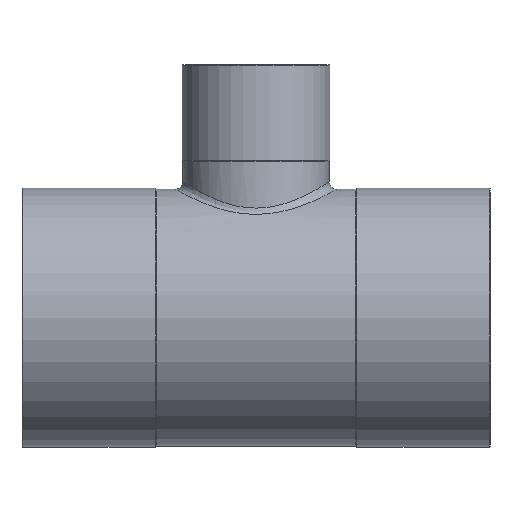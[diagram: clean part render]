
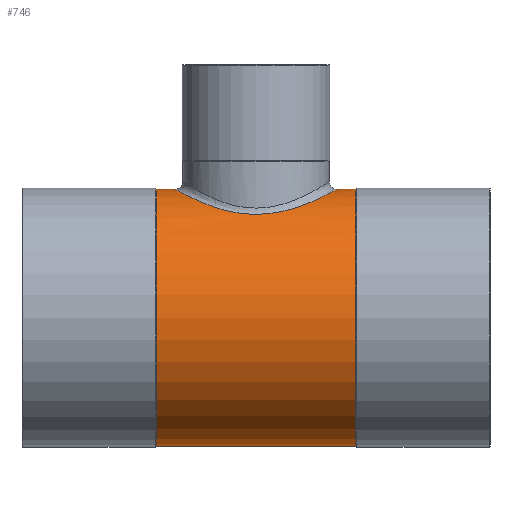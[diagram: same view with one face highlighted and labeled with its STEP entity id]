
A CAD part, top view. The second image highlights one B-rep face of the part: STEP entity #746.
In plain terms, the highlighted cylindrical face has radius 33.5 mm (diameter 67 mm), a partial arc.
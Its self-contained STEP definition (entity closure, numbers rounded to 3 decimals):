
#133=CARTESIAN_POINT('',(25.996,33.5,0.0));
#134=VERTEX_POINT('',#133);
#143=CARTESIAN_POINT('',(25.996,-33.5,0.));
#144=VERTEX_POINT('',#143);
#145=CARTESIAN_POINT('',(25.996,0.0,0.0));
#146=DIRECTION('',(1.0,0.0,0.0));
#147=DIRECTION('',(0.0,1.0,0.0));
#148=AXIS2_PLACEMENT_3D('',#145,#146,#147);
#149=CIRCLE('',#148,33.5);
#150=EDGE_CURVE('',#134,#144,#149,.T.);
#177=CARTESIAN_POINT('',(-25.996,33.5,0.0));
#178=VERTEX_POINT('',#177);
#194=CARTESIAN_POINT('',(-25.996,-33.5,0.));
#195=VERTEX_POINT('',#194);
#202=CARTESIAN_POINT('',(-25.996,0.0,0.0));
#203=DIRECTION('',(1.0,0.0,0.0));
#204=DIRECTION('',(0.0,1.0,0.0));
#205=AXIS2_PLACEMENT_3D('',#202,#203,#204);
#206=CIRCLE('',#205,33.5);
#207=EDGE_CURVE('',#178,#195,#206,.T.);
#698=CARTESIAN_POINT('',(12.998,0.0,0.0));
#699=DIRECTION('',(1.0,0.0,0.0));
#700=DIRECTION('',(0.0,1.0,0.0));
#701=AXIS2_PLACEMENT_3D('',#698,#699,#700);
#702=CYLINDRICAL_SURFACE('',#701,33.5);
#703=CARTESIAN_POINT('',(-21.075,33.5,0.));
#704=VERTEX_POINT('',#703);
#705=CARTESIAN_POINT('',(-25.996,33.5,0.0));
#706=DIRECTION('',(1.0,0.0,0.0));
#707=VECTOR('',#706,4.921);
#708=LINE('',#705,#707);
#709=EDGE_CURVE('',#178,#704,#708,.T.);
#710=ORIENTED_EDGE('',*,*,#709,.F.);
#711=ORIENTED_EDGE('',*,*,#207,.T.);
#712=CARTESIAN_POINT('',(25.996,-33.5,0.));
#713=DIRECTION('',(-1.0,0.0,0.0));
#714=VECTOR('',#713,51.992);
#715=LINE('',#712,#714);
#716=EDGE_CURVE('',#144,#195,#715,.T.);
#717=ORIENTED_EDGE('',*,*,#716,.F.);
#718=ORIENTED_EDGE('',*,*,#150,.F.);
#719=CARTESIAN_POINT('',(21.075,33.5,0.));
#720=VERTEX_POINT('',#719);
#721=CARTESIAN_POINT('',(21.075,33.5,0.));
#722=DIRECTION('',(1.0,0.0,0.0));
#723=VECTOR('',#722,4.921);
#724=LINE('',#721,#723);
#725=EDGE_CURVE('',#720,#134,#724,.T.);
#726=ORIENTED_EDGE('',*,*,#725,.F.);
#727=CARTESIAN_POINT('',(-21.075,33.5,0.));
#728=CARTESIAN_POINT('',(-21.075,33.5,2.445));
#729=CARTESIAN_POINT('',(-20.582,33.218,4.911));
#730=CARTESIAN_POINT('',(-18.024,31.85,11.163));
#731=CARTESIAN_POINT('',(-15.09,30.311,14.502));
#732=CARTESIAN_POINT('',(-8.677,28.076,18.369));
#733=CARTESIAN_POINT('',(-5.574,27.293,19.43));
#734=CARTESIAN_POINT('',(0.972,26.797,20.108));
#735=CARTESIAN_POINT('',(4.36,27.131,19.693));
#736=CARTESIAN_POINT('',(12.888,29.142,16.688));
#737=CARTESIAN_POINT('',(17.31,31.473,12.655));
#738=CARTESIAN_POINT('',(20.538,33.193,5.122));
#739=CARTESIAN_POINT('',(21.075,33.5,2.558));
#740=CARTESIAN_POINT('',(21.075,33.5,0.));
#741=B_SPLINE_CURVE_WITH_KNOTS('',3,(#727,#728,#729,#730,#731,#732,#733,#734,#735,#736,#737,#738,#739,#740),.UNSPECIFIED.,.F.,.U.,(4,2,2,2,2,2,4),(2.954,3.634,4.843,5.707,6.571,8.151,8.862),.UNSPECIFIED.);
#742=EDGE_CURVE('',#704,#720,#741,.T.);
#743=ORIENTED_EDGE('',*,*,#742,.F.);
#744=EDGE_LOOP('',(#710,#711,#717,#718,#726,#743));
#745=FACE_OUTER_BOUND('',#744,.T.);
#746=ADVANCED_FACE('',(#745),#702,.T.);
